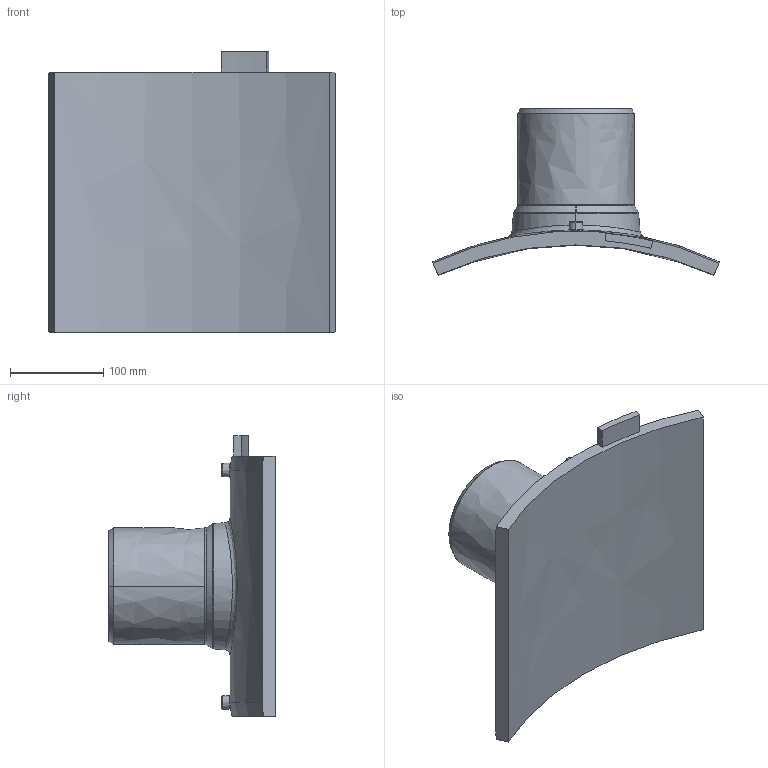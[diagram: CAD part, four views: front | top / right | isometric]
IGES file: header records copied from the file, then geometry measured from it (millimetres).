
Start section:  PTC IGES file: sa-uni_d710_125_01.igs
Global section: file name: sa-uni_d710_125_01.igs; native system: Pro/ENGINEER by Parametric Technology Corporation; preprocessor: 2011490; author: MikulicP; organization: Unknown; date: 20170206.141813; units: millimetre
Bounding box: 307.48 x 178.07 x 301 mm (x, y, z)
Surface area: 295100.7 mm2 (no closed solid volume)
Topology: 0 solids, 0 shells, 200 faces, 984 edges, 984 vertices
Faces by surface type: bspline 200
